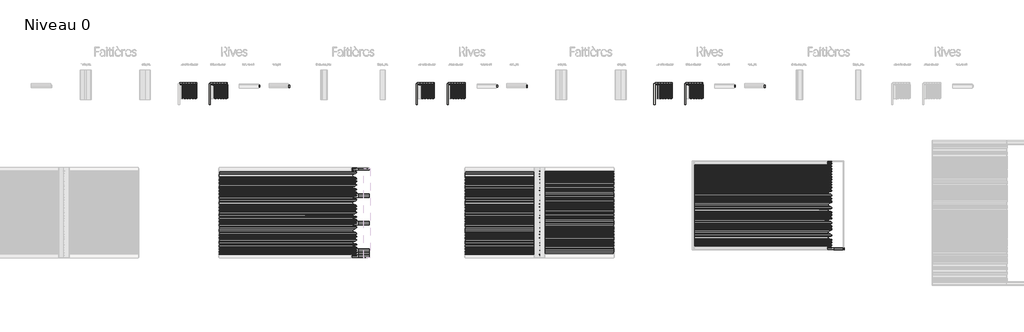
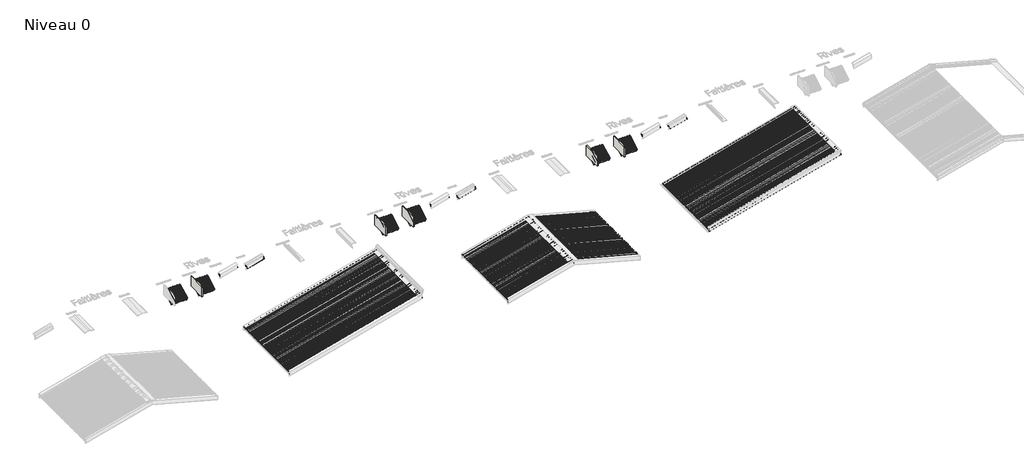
# One storey, part 3 of 26: 71 plates, 51 members, 5 walls.
"""IFC4 building model written with IfcOpenShell, lengths in millimetres."""

from ifc_helpers import new_model, si_unit, origin, origin_with_axes, place, context, project, spatial, polyline, outline, extrude, transform, mapped, element, save
from components import meneau_rectangulaire_d1d4f6c5, meneau_rectangulaire_3ecfb573, meneau_rectangulaire_c6909a84, meneau_rectangulaire_120ebf25, meneau_rectangulaire_eab91256, plate_819b0cbf, plate_a7339eb3, plate_113459ed, vide_4c8c02ac, vide_0bd5e38c, vide_01bff3c3, vide_253f0f0f, vide_02c59cd9, vide_ad1feedb, vide_11869157, vide_fb23bf97, vide_34ec2051, vide_70e162ae, vide_3ddd8d71, vide_3ae48945, vide_57d3df76, vide_da755f3b, vide_2511c875, vide_2859bd23, vide_1ae6cc3c, vide_78e3737e, vide_45902dbe

model = new_model("IFC4")

# Units and contexts
model_context = context("Model", 3, world=origin())
ifc_project = project(units=[si_unit("LENGTHUNIT", "METRE", prefix="MILLI")], contexts=[model_context])

# Site, building, storey
site = spatial("IfcSite", under=ifc_project)
building = spatial("IfcBuilding", under=site)
storey = spatial("IfcBuildingStorey", under=building, Name="Niveau 0", Elevation=0.0)

# Members
placement = place(None, origin())
meneau_rectangulaire_shape = meneau_rectangulaire_d1d4f6c5(model_context)
element("IfcMember", 1, ObjectType="Meneau rectangulaire : Regolare 800", at=placement, inside=storey, context=model_context, shape_type="MappedRepresentation", body=[
    mapped(meneau_rectangulaire_shape, transform((13543.1822429, -14523.7636661, 1339.7459622), x_axis=(0.0, -1.0, 0.0), y_axis=(0.25881904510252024, 0.0, -0.9659258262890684), z_axis=(0.9659258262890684, 0.0, 0.25881904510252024))),
])
element("IfcMember", 2, ObjectType="Meneau rectangulaire : Regolare 800", at=placement, inside=storey, context=model_context, shape_type="MappedRepresentation", body=[
    mapped(meneau_rectangulaire_shape, transform((13543.1822429, -14611.3242403, 1339.7459622), x_axis=(0.0, -1.0, 0.0), y_axis=(0.25881904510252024, 0.0, -0.9659258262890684), z_axis=(0.9659258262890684, 0.0, 0.25881904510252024))),
])
meneau_rectangulaire_2_shape = meneau_rectangulaire_3ecfb573(model_context)
element("IfcMember", 3, ObjectType="Meneau rectangulaire : Regolare 800", at=placement, inside=storey, context=model_context, shape_type="MappedRepresentation", body=[
    mapped(meneau_rectangulaire_2_shape, transform((7293.1822432, -8904.2596825, 269.9457298), x_axis=(1.0, 0.0, 0.0), y_axis=(0.0, 0.5000000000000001, -0.8660254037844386), z_axis=(0.0, 0.8660254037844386, 0.5000000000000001))),
])
element("IfcMember", 4, ObjectType="Meneau rectangulaire : Regolare 800", at=placement, inside=storey, context=model_context, shape_type="MappedRepresentation", body=[
    mapped(meneau_rectangulaire_2_shape, transform((7382.1822432, -8904.2596825, 269.9457298), x_axis=(1.0, 0.0, 0.0), y_axis=(0.0, 0.5000000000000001, -0.8660254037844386), z_axis=(0.0, 0.8660254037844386, 0.5000000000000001))),
])
element("IfcMember", 5, ObjectType="Meneau rectangulaire : Regolare 800", at=placement, inside=storey, context=model_context, shape_type="MappedRepresentation", body=[
    mapped(meneau_rectangulaire_2_shape, transform((7471.1822432, -8904.2596825, 269.9457298), x_axis=(1.0, 0.0, 0.0), y_axis=(0.0, 0.5000000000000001, -0.8660254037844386), z_axis=(0.0, 0.8660254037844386, 0.5000000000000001))),
])
element("IfcMember", 6, ObjectType="Meneau rectangulaire : Regolare 800", at=placement, inside=storey, context=model_context, shape_type="MappedRepresentation", body=[
    mapped(meneau_rectangulaire_2_shape, transform((7560.1822432, -8904.2596825, 269.9457298), x_axis=(1.0, 0.0, 0.0), y_axis=(0.0, 0.5000000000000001, -0.8660254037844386), z_axis=(0.0, 0.8660254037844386, 0.5000000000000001))),
])
element("IfcMember", 7, ObjectType="Meneau rectangulaire : Regolare 800", at=placement, inside=storey, context=model_context, shape_type="MappedRepresentation", body=[
    mapped(meneau_rectangulaire_2_shape, transform((7649.1822432, -8904.2596825, 269.9457298), x_axis=(1.0, 0.0, 0.0), y_axis=(0.0, 0.5000000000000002, -0.8660254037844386), z_axis=(0.0, 0.8660254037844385, 0.5000000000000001))),
])
element("IfcMember", 8, ObjectType="Meneau rectangulaire : Regolare 800", at=placement, inside=storey, context=model_context, shape_type="MappedRepresentation", body=[
    mapped(meneau_rectangulaire_2_shape, transform((7738.1822432, -8904.2596825, 269.9457298), x_axis=(1.0, 0.0, 0.0), y_axis=(0.0, 0.5000000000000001, -0.8660254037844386), z_axis=(0.0, 0.8660254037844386, 0.5000000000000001))),
])
element("IfcMember", 9, ObjectType="Meneau rectangulaire : Regolare 800", at=placement, inside=storey, context=model_context, shape_type="MappedRepresentation", body=[
    mapped(meneau_rectangulaire_2_shape, transform((8328.6564984, -8904.2596825, 269.9457298), x_axis=(1.0, 0.0, 0.0), y_axis=(0.0, 0.5000000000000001, -0.8660254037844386), z_axis=(0.0, 0.8660254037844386, 0.5000000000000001))),
])
element("IfcMember", 10, ObjectType="Meneau rectangulaire : Regolare 800", at=placement, inside=storey, context=model_context, shape_type="MappedRepresentation", body=[
    mapped(meneau_rectangulaire_2_shape, transform((8417.6564984, -8904.2596825, 269.9457298), x_axis=(1.0, 0.0, 0.0), y_axis=(0.0, 0.5000000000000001, -0.8660254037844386), z_axis=(0.0, 0.8660254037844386, 0.5000000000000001))),
])
element("IfcMember", 11, ObjectType="Meneau rectangulaire : Regolare 800", at=placement, inside=storey, context=model_context, shape_type="MappedRepresentation", body=[
    mapped(meneau_rectangulaire_2_shape, transform((8506.6564984, -8904.2596825, 269.9457298), x_axis=(1.0, 0.0, 0.0), y_axis=(0.0, 0.5000000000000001, -0.8660254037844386), z_axis=(0.0, 0.8660254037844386, 0.5000000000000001))),
])
element("IfcMember", 12, ObjectType="Meneau rectangulaire : Regolare 800", at=placement, inside=storey, context=model_context, shape_type="MappedRepresentation", body=[
    mapped(meneau_rectangulaire_2_shape, transform((8595.6564984, -8904.2596825, 269.9457298), x_axis=(1.0, 0.0, 0.0), y_axis=(0.0, 0.5000000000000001, -0.8660254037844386), z_axis=(0.0, 0.8660254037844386, 0.5000000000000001))),
])
element("IfcMember", 13, ObjectType="Meneau rectangulaire : Regolare 800", at=placement, inside=storey, context=model_context, shape_type="MappedRepresentation", body=[
    mapped(meneau_rectangulaire_2_shape, transform((8684.6564984, -8904.2596825, 269.9457298), x_axis=(1.0, 0.0, 0.0), y_axis=(0.0, 0.5000000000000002, -0.8660254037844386), z_axis=(0.0, 0.8660254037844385, 0.5000000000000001))),
])
element("IfcMember", 14, ObjectType="Meneau rectangulaire : Regolare 800", at=placement, inside=storey, context=model_context, shape_type="MappedRepresentation", body=[
    mapped(meneau_rectangulaire_2_shape, transform((8773.6564984, -8904.2596825, 269.9457298), x_axis=(1.0, 0.0, 0.0), y_axis=(0.0, 0.5000000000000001, -0.8660254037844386), z_axis=(0.0, 0.8660254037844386, 0.5000000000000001))),
])
element("IfcMember", 15, ObjectType="Meneau rectangulaire : Regolare 800", at=placement, inside=storey, context=model_context, shape_type="MappedRepresentation", body=[
    mapped(meneau_rectangulaire_2_shape, transform((15293.1822432, -8904.2596825, 269.9457298), x_axis=(1.0, 0.0, 0.0), y_axis=(0.0, 0.5000000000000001, -0.8660254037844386), z_axis=(0.0, 0.8660254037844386, 0.5000000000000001))),
])
element("IfcMember", 16, ObjectType="Meneau rectangulaire : Regolare 800", at=placement, inside=storey, context=model_context, shape_type="MappedRepresentation", body=[
    mapped(meneau_rectangulaire_2_shape, transform((15382.1822432, -8904.2596825, 269.9457298), x_axis=(1.0, 0.0, 0.0), y_axis=(0.0, 0.5000000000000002, -0.8660254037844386), z_axis=(0.0, 0.8660254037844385, 0.5000000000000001))),
])
element("IfcMember", 17, ObjectType="Meneau rectangulaire : Regolare 800", at=placement, inside=storey, context=model_context, shape_type="MappedRepresentation", body=[
    mapped(meneau_rectangulaire_2_shape, transform((15471.1822432, -8904.2596825, 269.9457298), x_axis=(1.0, 0.0, 0.0), y_axis=(0.0, 0.5000000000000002, -0.8660254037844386), z_axis=(0.0, 0.8660254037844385, 0.5000000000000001))),
])
element("IfcMember", 18, ObjectType="Meneau rectangulaire : Regolare 800", at=placement, inside=storey, context=model_context, shape_type="MappedRepresentation", body=[
    mapped(meneau_rectangulaire_2_shape, transform((15560.1822432, -8904.2596825, 269.9457298), x_axis=(1.0, 0.0, 0.0), y_axis=(0.0, 0.5000000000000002, -0.8660254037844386), z_axis=(0.0, 0.8660254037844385, 0.5000000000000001))),
])
element("IfcMember", 19, ObjectType="Meneau rectangulaire : Regolare 800", at=placement, inside=storey, context=model_context, shape_type="MappedRepresentation", body=[
    mapped(meneau_rectangulaire_2_shape, transform((15649.1822432, -8904.2596825, 269.9457298), x_axis=(1.0, 0.0, 0.0), y_axis=(0.0, 0.5000000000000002, -0.8660254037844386), z_axis=(0.0, 0.8660254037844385, 0.5000000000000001))),
])
element("IfcMember", 20, ObjectType="Meneau rectangulaire : Regolare 800", at=placement, inside=storey, context=model_context, shape_type="MappedRepresentation", body=[
    mapped(meneau_rectangulaire_2_shape, transform((15738.1822432, -8904.2596825, 269.9457298), x_axis=(1.0, 0.0, 0.0), y_axis=(0.0, 0.5000000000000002, -0.8660254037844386), z_axis=(0.0, 0.8660254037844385, 0.5000000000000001))),
])
element("IfcMember", 21, ObjectType="Meneau rectangulaire : Regolare 800", at=placement, inside=storey, context=model_context, shape_type="MappedRepresentation", body=[
    mapped(meneau_rectangulaire_2_shape, transform((16328.6564984, -8904.2596825, 269.9457298), x_axis=(1.0, 0.0, 0.0), y_axis=(0.0, 0.5000000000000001, -0.8660254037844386), z_axis=(0.0, 0.8660254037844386, 0.5000000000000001))),
])
element("IfcMember", 22, ObjectType="Meneau rectangulaire : Regolare 800", at=placement, inside=storey, context=model_context, shape_type="MappedRepresentation", body=[
    mapped(meneau_rectangulaire_2_shape, transform((16417.6564984, -8904.2596825, 269.9457298), x_axis=(1.0, 0.0, 0.0), y_axis=(0.0, 0.5000000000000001, -0.8660254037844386), z_axis=(0.0, 0.8660254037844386, 0.5000000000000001))),
])
element("IfcMember", 23, ObjectType="Meneau rectangulaire : Regolare 800", at=placement, inside=storey, context=model_context, shape_type="MappedRepresentation", body=[
    mapped(meneau_rectangulaire_2_shape, transform((16506.6564984, -8904.2596825, 269.9457298), x_axis=(1.0, 0.0, 0.0), y_axis=(0.0, 0.5000000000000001, -0.8660254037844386), z_axis=(0.0, 0.8660254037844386, 0.5000000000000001))),
])
element("IfcMember", 24, ObjectType="Meneau rectangulaire : Regolare 800", at=placement, inside=storey, context=model_context, shape_type="MappedRepresentation", body=[
    mapped(meneau_rectangulaire_2_shape, transform((16595.6564984, -8904.2596825, 269.9457298), x_axis=(1.0, 0.0, 0.0), y_axis=(0.0, 0.5000000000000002, -0.8660254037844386), z_axis=(0.0, 0.8660254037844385, 0.5000000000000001))),
])
element("IfcMember", 25, ObjectType="Meneau rectangulaire : Regolare 800", at=placement, inside=storey, context=model_context, shape_type="MappedRepresentation", body=[
    mapped(meneau_rectangulaire_2_shape, transform((16684.6564984, -8904.2596825, 269.9457298), x_axis=(1.0, 0.0, 0.0), y_axis=(0.0, 0.5000000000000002, -0.8660254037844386), z_axis=(0.0, 0.8660254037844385, 0.5000000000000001))),
])
element("IfcMember", 26, ObjectType="Meneau rectangulaire : Regolare 800", at=placement, inside=storey, context=model_context, shape_type="MappedRepresentation", body=[
    mapped(meneau_rectangulaire_2_shape, transform((16773.6564984, -8904.2596825, 269.9457298), x_axis=(1.0, 0.0, 0.0), y_axis=(0.0, 0.5000000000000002, -0.8660254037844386), z_axis=(0.0, 0.8660254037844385, 0.5000000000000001))),
])
element("IfcMember", 27, ObjectType="Meneau rectangulaire : Regolare 800", at=placement, inside=storey, context=model_context, shape_type="MappedRepresentation", body=[
    mapped(meneau_rectangulaire_2_shape, transform((23293.1822432, -8904.2596825, 269.9457298), x_axis=(1.0, 0.0, 0.0), y_axis=(0.0, 0.5000000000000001, -0.8660254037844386), z_axis=(0.0, 0.8660254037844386, 0.5000000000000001))),
])
element("IfcMember", 28, ObjectType="Meneau rectangulaire : Regolare 800", at=placement, inside=storey, context=model_context, shape_type="MappedRepresentation", body=[
    mapped(meneau_rectangulaire_2_shape, transform((23382.1822432, -8904.2596825, 269.9457298), x_axis=(1.0, 0.0, 0.0), y_axis=(0.0, 0.5000000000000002, -0.8660254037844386), z_axis=(0.0, 0.8660254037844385, 0.5000000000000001))),
])
element("IfcMember", 29, ObjectType="Meneau rectangulaire : Regolare 800", at=placement, inside=storey, context=model_context, shape_type="MappedRepresentation", body=[
    mapped(meneau_rectangulaire_2_shape, transform((23471.1822432, -8904.2596825, 269.9457298), x_axis=(1.0, 0.0, 0.0), y_axis=(0.0, 0.5000000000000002, -0.8660254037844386), z_axis=(0.0, 0.8660254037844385, 0.5000000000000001))),
])
element("IfcMember", 30, ObjectType="Meneau rectangulaire : Regolare 800", at=placement, inside=storey, context=model_context, shape_type="MappedRepresentation", body=[
    mapped(meneau_rectangulaire_2_shape, transform((23560.1822432, -8904.2596825, 269.9457298), x_axis=(1.0, 0.0, 0.0), y_axis=(0.0, 0.5000000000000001, -0.8660254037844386), z_axis=(0.0, 0.8660254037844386, 0.5000000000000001))),
])
element("IfcMember", 31, ObjectType="Meneau rectangulaire : Regolare 800", at=placement, inside=storey, context=model_context, shape_type="MappedRepresentation", body=[
    mapped(meneau_rectangulaire_2_shape, transform((23649.1822432, -8904.2596825, 269.9457298), x_axis=(1.0, 0.0, 0.0), y_axis=(0.0, 0.5000000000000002, -0.8660254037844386), z_axis=(0.0, 0.8660254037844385, 0.5000000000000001))),
])
element("IfcMember", 32, ObjectType="Meneau rectangulaire : Regolare 800", at=placement, inside=storey, context=model_context, shape_type="MappedRepresentation", body=[
    mapped(meneau_rectangulaire_2_shape, transform((23738.1822432, -8904.2596825, 269.9457298), x_axis=(1.0, 0.0, 0.0), y_axis=(0.0, 0.5000000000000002, -0.8660254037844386), z_axis=(0.0, 0.8660254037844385, 0.5000000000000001))),
])
element("IfcMember", 33, ObjectType="Meneau rectangulaire : Regolare 800", at=placement, inside=storey, context=model_context, shape_type="MappedRepresentation", body=[
    mapped(meneau_rectangulaire_2_shape, transform((24328.6564984, -8904.2596825, 269.9457298), x_axis=(1.0, 0.0, 0.0), y_axis=(0.0, 0.5000000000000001, -0.8660254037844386), z_axis=(0.0, 0.8660254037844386, 0.5000000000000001))),
])
element("IfcMember", 34, ObjectType="Meneau rectangulaire : Regolare 800", at=placement, inside=storey, context=model_context, shape_type="MappedRepresentation", body=[
    mapped(meneau_rectangulaire_2_shape, transform((24417.6564984, -8904.2596825, 269.9457298), x_axis=(1.0, 0.0, 0.0), y_axis=(0.0, 0.5000000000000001, -0.8660254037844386), z_axis=(0.0, 0.8660254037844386, 0.5000000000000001))),
])
element("IfcMember", 35, ObjectType="Meneau rectangulaire : Regolare 800", at=placement, inside=storey, context=model_context, shape_type="MappedRepresentation", body=[
    mapped(meneau_rectangulaire_2_shape, transform((24506.6564984, -8904.2596825, 269.9457298), x_axis=(1.0, 0.0, 0.0), y_axis=(0.0, 0.5000000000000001, -0.8660254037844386), z_axis=(0.0, 0.8660254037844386, 0.5000000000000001))),
])
element("IfcMember", 36, ObjectType="Meneau rectangulaire : Regolare 800", at=placement, inside=storey, context=model_context, shape_type="MappedRepresentation", body=[
    mapped(meneau_rectangulaire_2_shape, transform((24595.6564984, -8904.2596825, 269.9457298), x_axis=(1.0, 0.0, 0.0), y_axis=(0.0, 0.5000000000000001, -0.8660254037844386), z_axis=(0.0, 0.8660254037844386, 0.5000000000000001))),
])
element("IfcMember", 37, ObjectType="Meneau rectangulaire : Regolare 800", at=placement, inside=storey, context=model_context, shape_type="MappedRepresentation", body=[
    mapped(meneau_rectangulaire_2_shape, transform((24684.6564984, -8904.2596825, 269.9457298), x_axis=(1.0, 0.0, 0.0), y_axis=(0.0, 0.5000000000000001, -0.8660254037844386), z_axis=(0.0, 0.8660254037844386, 0.5000000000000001))),
])
element("IfcMember", 38, ObjectType="Meneau rectangulaire : Regolare 800", at=placement, inside=storey, context=model_context, shape_type="MappedRepresentation", body=[
    mapped(meneau_rectangulaire_2_shape, transform((24773.6564984, -8904.2596825, 269.9457298), x_axis=(1.0, 0.0, 0.0), y_axis=(0.0, 0.5000000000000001, -0.8660254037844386), z_axis=(0.0, 0.8660254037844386, 0.5000000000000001))),
])
meneau_rectangulaire_3_shape = meneau_rectangulaire_c6909a84(model_context)
element("IfcMember", 39, ObjectType="Meneau rectangulaire : Regolare 800", at=placement, inside=storey, context=model_context, shape_type="MappedRepresentation", body=[
    mapped(meneau_rectangulaire_3_shape, transform((19316.3996071, -11901.1860221, 669.8729811), x_axis=(0.0, 1.0, 0.0), y_axis=(-0.25881904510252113, 0.0, -0.9659258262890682), z_axis=(-0.9659258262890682, 0.0, 0.25881904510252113))),
])
element("IfcMember", 40, ObjectType="Meneau rectangulaire : Regolare 800", at=placement, inside=storey, context=model_context, shape_type="MappedRepresentation", body=[
    mapped(meneau_rectangulaire_3_shape, transform((19316.3996071, -14522.4337097, 669.8729811), x_axis=(0.0, -1.0, 0.0), y_axis=(0.25881904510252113, 0.0, -0.9659258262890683), z_axis=(0.9659258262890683, 0.0, 0.25881904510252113))),
])
element("IfcMember", 41, ObjectType="Meneau rectangulaire : Regolare 800", at=placement, inside=storey, context=model_context, shape_type="MappedRepresentation", body=[
    mapped(meneau_rectangulaire_3_shape, transform((19316.3996071, -14612.4337097, 669.8729811), x_axis=(0.0, -1.0, 0.0), y_axis=(0.25881904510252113, 0.0, -0.9659258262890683), z_axis=(0.9659258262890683, 0.0, 0.25881904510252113))),
])
element("IfcMember", 42, ObjectType="Meneau rectangulaire : Regolare 800", at=placement, inside=storey, context=model_context, shape_type="MappedRepresentation", body=[
    mapped(meneau_rectangulaire_3_shape, transform((19316.3996071, -11812.3356781, 669.8729811), x_axis=(0.0, 1.0, 0.0), y_axis=(-0.25881904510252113, 0.0, -0.9659258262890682), z_axis=(-0.9659258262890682, 0.0, 0.25881904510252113))),
])
meneau_rectangulaire_4_shape = meneau_rectangulaire_120ebf25(model_context)
element("IfcMember", 43, ObjectType="Meneau rectangulaire : Ritmica 930", at=placement, inside=storey, context=model_context, shape_type="MappedRepresentation", body=[
    mapped(meneau_rectangulaire_4_shape, transform((13543.1822429, -12203.504748, 1339.7459622), x_axis=(0.0, -1.0, 0.0), y_axis=(0.25881904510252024, 0.0, -0.9659258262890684), z_axis=(0.9659258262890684, 0.0, 0.25881904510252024))),
])
element("IfcMember", 44, ObjectType="Meneau rectangulaire : Ritmica 930", at=placement, inside=storey, context=model_context, shape_type="MappedRepresentation", body=[
    mapped(meneau_rectangulaire_4_shape, transform((13543.1822429, -13130.504748, 1339.7459622), x_axis=(0.0, -1.0, 0.0), y_axis=(0.25881904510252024, 0.0, -0.9659258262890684), z_axis=(0.9659258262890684, 0.0, 0.25881904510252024))),
])
element("IfcMember", 45, ObjectType="Meneau rectangulaire : Ritmica 930", at=placement, inside=storey, context=model_context, shape_type="MappedRepresentation", body=[
    mapped(meneau_rectangulaire_4_shape, transform((13543.1822429, -14057.504748, 1339.7459622), x_axis=(0.0, -1.0, 0.0), y_axis=(0.25881904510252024, 0.0, -0.9659258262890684), z_axis=(0.9659258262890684, 0.0, 0.25881904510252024))),
])
meneau_rectangulaire_5_shape = meneau_rectangulaire_eab91256(model_context)
element("IfcMember", 46, ObjectType="Meneau rectangulaire : Ritmica 930", at=placement, inside=storey, context=model_context, shape_type="MappedRepresentation", body=[
    mapped(meneau_rectangulaire_5_shape, transform((19316.3996071, -14221.3626714, 669.8729811), x_axis=(0.0, 1.0, 0.0), y_axis=(-0.25881904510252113, 0.0, -0.9659258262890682), z_axis=(-0.9659258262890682, 0.0, 0.25881904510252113))),
])
element("IfcMember", 47, ObjectType="Meneau rectangulaire : Ritmica 930", at=placement, inside=storey, context=model_context, shape_type="MappedRepresentation", body=[
    mapped(meneau_rectangulaire_5_shape, transform((19316.3996071, -13294.3626714, 669.8729811), x_axis=(0.0, 1.0, 0.0), y_axis=(-0.25881904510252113, 0.0, -0.9659258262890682), z_axis=(-0.9659258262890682, 0.0, 0.25881904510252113))),
])
element("IfcMember", 48, ObjectType="Meneau rectangulaire : Ritmica 930", at=placement, inside=storey, context=model_context, shape_type="MappedRepresentation", body=[
    mapped(meneau_rectangulaire_5_shape, transform((19316.3996071, -12367.3626714, 669.8729811), x_axis=(0.0, 1.0, 0.0), y_axis=(-0.25881904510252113, 0.0, -0.9659258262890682), z_axis=(-0.9659258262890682, 0.0, 0.25881904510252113))),
])
element("IfcMember", 49, ObjectType="Meneau rectangulaire : Ritmica 930", at=placement, inside=storey, context=model_context, shape_type="MappedRepresentation", body=[
    mapped(meneau_rectangulaire_5_shape, transform((19316.3996071, -12203.504748, 669.8729811), x_axis=(0.0, -1.0, 0.0), y_axis=(0.25881904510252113, 0.0, -0.9659258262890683), z_axis=(0.9659258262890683, 0.0, 0.25881904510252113))),
])
element("IfcMember", 50, ObjectType="Meneau rectangulaire : Ritmica 930", at=placement, inside=storey, context=model_context, shape_type="MappedRepresentation", body=[
    mapped(meneau_rectangulaire_5_shape, transform((19316.3996071, -13130.504748, 669.8729811), x_axis=(0.0, -1.0, 0.0), y_axis=(0.25881904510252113, 0.0, -0.9659258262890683), z_axis=(0.9659258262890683, 0.0, 0.25881904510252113))),
])
element("IfcMember", 51, ObjectType="Meneau rectangulaire : Ritmica 930", at=placement, inside=storey, context=model_context, shape_type="MappedRepresentation", body=[
    mapped(meneau_rectangulaire_5_shape, transform((19316.3996071, -14057.504748, 669.8729811), x_axis=(0.0, -1.0, 0.0), y_axis=(0.25881904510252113, 0.0, -0.9659258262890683), z_axis=(0.9659258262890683, 0.0, 0.25881904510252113))),
])

# Plates
plate_shape = plate_819b0cbf(model_context)
element("IfcPlate", 52, ObjectType="Regolare Couverture 801  : Regolare Couverture 801 ", at=placement, inside=storey, context=model_context, shape_type="MappedRepresentation", body=[
    mapped(plate_shape, transform((24538.005862, -11867.4337097, 0.0), x_axis=(0.0, -1.0, 0.0), y_axis=(0.25881904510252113, 0.0, -0.9659258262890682), z_axis=(0.9659258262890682, 0.0, 0.25881904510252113))),
])
plate_2_shape = plate_a7339eb3(model_context)
element("IfcPlate", 53, ObjectType="Regolare Couverture 267  : Regolare Couverture 267 ", at=placement, inside=storey, context=model_context, shape_type="MappedRepresentation", body=[
    mapped(plate_2_shape, transform((24538.005862, -14257.4337097, 0.0), x_axis=(0.0, -1.0, 0.0), y_axis=(0.25881904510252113, 0.0, -0.9659258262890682), z_axis=(0.9659258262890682, 0.0, 0.25881904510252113))),
])
plate_3_shape = plate_113459ed(model_context)
element("IfcPlate", 54, ObjectType="Ritmica Couverture 928  : Ritmica Couverture 928 ", at=placement, inside=storey, context=model_context, shape_type="MappedRepresentation", body=[
    mapped(plate_3_shape, transform((24538.005862, -12731.9337097, 0.0), x_axis=(0.0, -1.0, 0.0), y_axis=(0.25881904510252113, 0.0, -0.9659258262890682), z_axis=(0.9659258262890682, 0.0, 0.25881904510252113))),
])
element("IfcPlate", 55, ObjectType="Ritmica Couverture 928  : Ritmica Couverture 928 ", at=placement, inside=storey, context=model_context, shape_type="MappedRepresentation", body=[
    mapped(plate_3_shape, transform((24538.005862, -13659.9337097, 0.0), x_axis=(0.0, -1.0, 0.0), y_axis=(0.25881904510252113, 0.0, -0.9659258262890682), z_axis=(0.9659258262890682, 0.0, 0.25881904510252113))),
])
vide_shape = vide_4c8c02ac(model_context)
element("IfcPlate", 56, ObjectType="Panneau système vide : Vide", at=placement, inside=storey, context=model_context, shape_type="MappedRepresentation", body=[
    mapped(vide_shape, transform((7248.6822431, -9371.8194017, 0.0), x_axis=(1.0, 0.0, 0.0), y_axis=(0.0, 0.5000000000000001, -0.8660254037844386), z_axis=(0.0, 0.8660254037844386, 0.5000000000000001))),
])
element("IfcPlate", 57, ObjectType="Panneau système vide : Vide", at=placement, inside=storey, context=model_context, shape_type="MappedRepresentation", body=[
    mapped(vide_shape, transform((8284.1564982, -9371.8194017, 0.0), x_axis=(1.0, 0.0, 0.0), y_axis=(0.0, 0.5000000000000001, -0.8660254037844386), z_axis=(0.0, 0.8660254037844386, 0.5000000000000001))),
])
element("IfcPlate", 58, ObjectType="Panneau système vide : Vide", at=placement, inside=storey, context=model_context, shape_type="MappedRepresentation", body=[
    mapped(vide_shape, transform((15248.6822431, -9371.8194017, 0.0), x_axis=(1.0, 0.0, 0.0), y_axis=(0.0, 0.5000000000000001, -0.8660254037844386), z_axis=(0.0, 0.8660254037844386, 0.5000000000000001))),
])
element("IfcPlate", 59, ObjectType="Panneau système vide : Vide", at=placement, inside=storey, context=model_context, shape_type="MappedRepresentation", body=[
    mapped(vide_shape, transform((16284.1564982, -9371.8194017, 0.0), x_axis=(1.0, 0.0, 0.0), y_axis=(0.0, 0.5000000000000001, -0.8660254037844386), z_axis=(0.0, 0.8660254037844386, 0.5000000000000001))),
])
element("IfcPlate", 60, ObjectType="Panneau système vide : Vide", at=placement, inside=storey, context=model_context, shape_type="MappedRepresentation", body=[
    mapped(vide_shape, transform((23248.6822431, -9371.8194017, 0.0), x_axis=(1.0, 0.0, 0.0), y_axis=(0.0, 0.5000000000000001, -0.8660254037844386), z_axis=(0.0, 0.8660254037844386, 0.5000000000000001))),
])
element("IfcPlate", 61, ObjectType="Panneau système vide : Vide", at=placement, inside=storey, context=model_context, shape_type="MappedRepresentation", body=[
    mapped(vide_shape, transform((24284.1564982, -9371.8194017, 0.0), x_axis=(1.0, 0.0, 0.0), y_axis=(0.0, 0.5000000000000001, -0.8660254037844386), z_axis=(0.0, 0.8660254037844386, 0.5000000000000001))),
])
vide_2_shape = vide_0bd5e38c(model_context)
element("IfcPlate", 62, ObjectType="Panneau système vide : Vide", at=placement, inside=storey, context=model_context, shape_type="MappedRepresentation", body=[
    mapped(vide_2_shape, transform((7337.6822432, -9371.8194017, 0.0), x_axis=(1.0, 0.0, 0.0), y_axis=(0.0, 0.5000000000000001, -0.8660254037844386), z_axis=(0.0, 0.8660254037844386, 0.5000000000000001))),
])
element("IfcPlate", 63, ObjectType="Panneau système vide : Vide", at=placement, inside=storey, context=model_context, shape_type="MappedRepresentation", body=[
    mapped(vide_2_shape, transform((7426.6822432, -9371.8194017, 0.0), x_axis=(1.0, 0.0, 0.0), y_axis=(0.0, 0.5000000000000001, -0.8660254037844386), z_axis=(0.0, 0.8660254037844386, 0.5000000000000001))),
])
element("IfcPlate", 64, ObjectType="Panneau système vide : Vide", at=placement, inside=storey, context=model_context, shape_type="MappedRepresentation", body=[
    mapped(vide_2_shape, transform((7515.6822432, -9371.8194017, 0.0), x_axis=(1.0, 0.0, 0.0), y_axis=(0.0, 0.5000000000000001, -0.8660254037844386), z_axis=(0.0, 0.8660254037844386, 0.5000000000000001))),
])
element("IfcPlate", 65, ObjectType="Panneau système vide : Vide", at=placement, inside=storey, context=model_context, shape_type="MappedRepresentation", body=[
    mapped(vide_2_shape, transform((7604.6822432, -9371.8194017, 0.0), x_axis=(1.0, 0.0, 0.0), y_axis=(0.0, 0.5000000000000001, -0.8660254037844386), z_axis=(0.0, 0.8660254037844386, 0.5000000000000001))),
])
element("IfcPlate", 66, ObjectType="Panneau système vide : Vide", at=placement, inside=storey, context=model_context, shape_type="MappedRepresentation", body=[
    mapped(vide_2_shape, transform((7693.6822432, -9371.8194017, 0.0), x_axis=(1.0, 0.0, 0.0), y_axis=(0.0, 0.5000000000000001, -0.8660254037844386), z_axis=(0.0, 0.8660254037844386, 0.5000000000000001))),
])
element("IfcPlate", 67, ObjectType="Panneau système vide : Vide", at=placement, inside=storey, context=model_context, shape_type="MappedRepresentation", body=[
    mapped(vide_2_shape, transform((8373.1564984, -9371.8194017, 0.0), x_axis=(1.0, 0.0, 0.0), y_axis=(0.0, 0.5000000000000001, -0.8660254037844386), z_axis=(0.0, 0.8660254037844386, 0.5000000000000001))),
])
element("IfcPlate", 68, ObjectType="Panneau système vide : Vide", at=placement, inside=storey, context=model_context, shape_type="MappedRepresentation", body=[
    mapped(vide_2_shape, transform((8462.1564984, -9371.8194017, 0.0), x_axis=(1.0, 0.0, 0.0), y_axis=(0.0, 0.5000000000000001, -0.8660254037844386), z_axis=(0.0, 0.8660254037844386, 0.5000000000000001))),
])
element("IfcPlate", 69, ObjectType="Panneau système vide : Vide", at=placement, inside=storey, context=model_context, shape_type="MappedRepresentation", body=[
    mapped(vide_2_shape, transform((8551.1564984, -9371.8194017, 0.0), x_axis=(1.0, 0.0, 0.0), y_axis=(0.0, 0.5000000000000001, -0.8660254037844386), z_axis=(0.0, 0.8660254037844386, 0.5000000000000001))),
])
element("IfcPlate", 70, ObjectType="Panneau système vide : Vide", at=placement, inside=storey, context=model_context, shape_type="MappedRepresentation", body=[
    mapped(vide_2_shape, transform((8640.1564984, -9371.8194017, 0.0), x_axis=(1.0, 0.0, 0.0), y_axis=(0.0, 0.5000000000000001, -0.8660254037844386), z_axis=(0.0, 0.8660254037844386, 0.5000000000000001))),
])
element("IfcPlate", 71, ObjectType="Panneau système vide : Vide", at=placement, inside=storey, context=model_context, shape_type="MappedRepresentation", body=[
    mapped(vide_2_shape, transform((8729.1564984, -9371.8194017, 0.0), x_axis=(1.0, 0.0, 0.0), y_axis=(0.0, 0.5000000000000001, -0.8660254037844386), z_axis=(0.0, 0.8660254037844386, 0.5000000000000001))),
])
element("IfcPlate", 72, ObjectType="Panneau système vide : Vide", at=placement, inside=storey, context=model_context, shape_type="MappedRepresentation", body=[
    mapped(vide_2_shape, transform((15337.6822432, -9371.8194017, 0.0), x_axis=(1.0, 0.0, 0.0), y_axis=(0.0, 0.5000000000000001, -0.8660254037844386), z_axis=(0.0, 0.8660254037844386, 0.5000000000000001))),
])
element("IfcPlate", 73, ObjectType="Panneau système vide : Vide", at=placement, inside=storey, context=model_context, shape_type="MappedRepresentation", body=[
    mapped(vide_2_shape, transform((15426.6822432, -9371.8194017, 0.0), x_axis=(1.0, 0.0, 0.0), y_axis=(0.0, 0.5000000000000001, -0.8660254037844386), z_axis=(0.0, 0.8660254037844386, 0.5000000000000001))),
])
element("IfcPlate", 74, ObjectType="Panneau système vide : Vide", at=placement, inside=storey, context=model_context, shape_type="MappedRepresentation", body=[
    mapped(vide_2_shape, transform((15515.6822432, -9371.8194017, 0.0), x_axis=(1.0, 0.0, 0.0), y_axis=(0.0, 0.5000000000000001, -0.8660254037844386), z_axis=(0.0, 0.8660254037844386, 0.5000000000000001))),
])
element("IfcPlate", 75, ObjectType="Panneau système vide : Vide", at=placement, inside=storey, context=model_context, shape_type="MappedRepresentation", body=[
    mapped(vide_2_shape, transform((15604.6822432, -9371.8194017, 0.0), x_axis=(1.0, 0.0, 0.0), y_axis=(0.0, 0.5000000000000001, -0.8660254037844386), z_axis=(0.0, 0.8660254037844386, 0.5000000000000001))),
])
element("IfcPlate", 76, ObjectType="Panneau système vide : Vide", at=placement, inside=storey, context=model_context, shape_type="MappedRepresentation", body=[
    mapped(vide_2_shape, transform((15693.6822432, -9371.8194017, 0.0), x_axis=(1.0, 0.0, 0.0), y_axis=(0.0, 0.5000000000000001, -0.8660254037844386), z_axis=(0.0, 0.8660254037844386, 0.5000000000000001))),
])
element("IfcPlate", 77, ObjectType="Panneau système vide : Vide", at=placement, inside=storey, context=model_context, shape_type="MappedRepresentation", body=[
    mapped(vide_2_shape, transform((16373.1564984, -9371.8194017, 0.0), x_axis=(1.0, 0.0, 0.0), y_axis=(0.0, 0.5000000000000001, -0.8660254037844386), z_axis=(0.0, 0.8660254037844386, 0.5000000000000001))),
])
element("IfcPlate", 78, ObjectType="Panneau système vide : Vide", at=placement, inside=storey, context=model_context, shape_type="MappedRepresentation", body=[
    mapped(vide_2_shape, transform((16462.1564984, -9371.8194017, 0.0), x_axis=(1.0, 0.0, 0.0), y_axis=(0.0, 0.5000000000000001, -0.8660254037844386), z_axis=(0.0, 0.8660254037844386, 0.5000000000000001))),
])
element("IfcPlate", 79, ObjectType="Panneau système vide : Vide", at=placement, inside=storey, context=model_context, shape_type="MappedRepresentation", body=[
    mapped(vide_2_shape, transform((16551.1564984, -9371.8194017, 0.0), x_axis=(1.0, 0.0, 0.0), y_axis=(0.0, 0.5000000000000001, -0.8660254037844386), z_axis=(0.0, 0.8660254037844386, 0.5000000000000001))),
])
element("IfcPlate", 80, ObjectType="Panneau système vide : Vide", at=placement, inside=storey, context=model_context, shape_type="MappedRepresentation", body=[
    mapped(vide_2_shape, transform((16640.1564984, -9371.8194017, 0.0), x_axis=(1.0, 0.0, 0.0), y_axis=(0.0, 0.5000000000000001, -0.8660254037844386), z_axis=(0.0, 0.8660254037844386, 0.5000000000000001))),
])
element("IfcPlate", 81, ObjectType="Panneau système vide : Vide", at=placement, inside=storey, context=model_context, shape_type="MappedRepresentation", body=[
    mapped(vide_2_shape, transform((16729.1564984, -9371.8194017, 0.0), x_axis=(1.0, 0.0, 0.0), y_axis=(0.0, 0.5000000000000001, -0.8660254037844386), z_axis=(0.0, 0.8660254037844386, 0.5000000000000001))),
])
element("IfcPlate", 82, ObjectType="Panneau système vide : Vide", at=placement, inside=storey, context=model_context, shape_type="MappedRepresentation", body=[
    mapped(vide_2_shape, transform((23337.6822432, -9371.8194017, 0.0), x_axis=(1.0, 0.0, 0.0), y_axis=(0.0, 0.5000000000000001, -0.8660254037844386), z_axis=(0.0, 0.8660254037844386, 0.5000000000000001))),
])
element("IfcPlate", 83, ObjectType="Panneau système vide : Vide", at=placement, inside=storey, context=model_context, shape_type="MappedRepresentation", body=[
    mapped(vide_2_shape, transform((23426.6822432, -9371.8194017, 0.0), x_axis=(1.0, 0.0, 0.0), y_axis=(0.0, 0.5000000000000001, -0.8660254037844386), z_axis=(0.0, 0.8660254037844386, 0.5000000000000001))),
])
element("IfcPlate", 84, ObjectType="Panneau système vide : Vide", at=placement, inside=storey, context=model_context, shape_type="MappedRepresentation", body=[
    mapped(vide_2_shape, transform((23515.6822432, -9371.8194017, 0.0), x_axis=(1.0, 0.0, 0.0), y_axis=(0.0, 0.5000000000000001, -0.8660254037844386), z_axis=(0.0, 0.8660254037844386, 0.5000000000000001))),
])
element("IfcPlate", 85, ObjectType="Panneau système vide : Vide", at=placement, inside=storey, context=model_context, shape_type="MappedRepresentation", body=[
    mapped(vide_2_shape, transform((23604.6822432, -9371.8194017, 0.0), x_axis=(1.0, 0.0, 0.0), y_axis=(0.0, 0.5000000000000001, -0.8660254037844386), z_axis=(0.0, 0.8660254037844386, 0.5000000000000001))),
])
element("IfcPlate", 86, ObjectType="Panneau système vide : Vide", at=placement, inside=storey, context=model_context, shape_type="MappedRepresentation", body=[
    mapped(vide_2_shape, transform((23693.6822432, -9371.8194017, 0.0), x_axis=(1.0, 0.0, 0.0), y_axis=(0.0, 0.5000000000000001, -0.8660254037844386), z_axis=(0.0, 0.8660254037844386, 0.5000000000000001))),
])
element("IfcPlate", 87, ObjectType="Panneau système vide : Vide", at=placement, inside=storey, context=model_context, shape_type="MappedRepresentation", body=[
    mapped(vide_2_shape, transform((24373.1564984, -9371.8194017, 0.0), x_axis=(1.0, 0.0, 0.0), y_axis=(0.0, 0.5000000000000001, -0.8660254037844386), z_axis=(0.0, 0.8660254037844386, 0.5000000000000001))),
])
element("IfcPlate", 88, ObjectType="Panneau système vide : Vide", at=placement, inside=storey, context=model_context, shape_type="MappedRepresentation", body=[
    mapped(vide_2_shape, transform((24462.1564984, -9371.8194017, 0.0), x_axis=(1.0, 0.0, 0.0), y_axis=(0.0, 0.5000000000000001, -0.8660254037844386), z_axis=(0.0, 0.8660254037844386, 0.5000000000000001))),
])
element("IfcPlate", 89, ObjectType="Panneau système vide : Vide", at=placement, inside=storey, context=model_context, shape_type="MappedRepresentation", body=[
    mapped(vide_2_shape, transform((24551.1564984, -9371.8194017, 0.0), x_axis=(1.0, 0.0, 0.0), y_axis=(0.0, 0.5000000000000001, -0.8660254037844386), z_axis=(0.0, 0.8660254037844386, 0.5000000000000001))),
])
element("IfcPlate", 90, ObjectType="Panneau système vide : Vide", at=placement, inside=storey, context=model_context, shape_type="MappedRepresentation", body=[
    mapped(vide_2_shape, transform((24640.1564984, -9371.8194017, 0.0), x_axis=(1.0, 0.0, 0.0), y_axis=(0.0, 0.5000000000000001, -0.8660254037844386), z_axis=(0.0, 0.8660254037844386, 0.5000000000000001))),
])
element("IfcPlate", 91, ObjectType="Panneau système vide : Vide", at=placement, inside=storey, context=model_context, shape_type="MappedRepresentation", body=[
    mapped(vide_2_shape, transform((24729.1564984, -9371.8194017, 0.0), x_axis=(1.0, 0.0, 0.0), y_axis=(0.0, 0.5000000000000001, -0.8660254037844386), z_axis=(0.0, 0.8660254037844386, 0.5000000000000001))),
])
vide_3_shape = vide_01bff3c3(model_context)
element("IfcPlate", 92, ObjectType="Panneau système vide : Vide", at=placement, inside=storey, context=model_context, shape_type="MappedRepresentation", body=[
    mapped(vide_3_shape, transform((7758.6822431, -9371.8194017, 0.0), x_axis=(1.0, 0.0, 0.0), y_axis=(0.0, 0.5000000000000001, -0.8660254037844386), z_axis=(0.0, 0.8660254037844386, 0.5000000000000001))),
])
element("IfcPlate", 93, ObjectType="Panneau système vide : Vide", at=placement, inside=storey, context=model_context, shape_type="MappedRepresentation", body=[
    mapped(vide_3_shape, transform((8794.1564982, -9371.8194017, 0.0), x_axis=(1.0, 0.0, 0.0), y_axis=(0.0, 0.5000000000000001, -0.8660254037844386), z_axis=(0.0, 0.8660254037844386, 0.5000000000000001))),
])
element("IfcPlate", 94, ObjectType="Panneau système vide : Vide", at=placement, inside=storey, context=model_context, shape_type="MappedRepresentation", body=[
    mapped(vide_3_shape, transform((15758.6822431, -9371.8194017, 0.0), x_axis=(1.0, 0.0, 0.0), y_axis=(0.0, 0.5000000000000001, -0.8660254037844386), z_axis=(0.0, 0.8660254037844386, 0.5000000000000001))),
])
element("IfcPlate", 95, ObjectType="Panneau système vide : Vide", at=placement, inside=storey, context=model_context, shape_type="MappedRepresentation", body=[
    mapped(vide_3_shape, transform((16794.1564982, -9371.8194017, 0.0), x_axis=(1.0, 0.0, 0.0), y_axis=(0.0, 0.5000000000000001, -0.8660254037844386), z_axis=(0.0, 0.8660254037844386, 0.5000000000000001))),
])
element("IfcPlate", 96, ObjectType="Panneau système vide : Vide", at=placement, inside=storey, context=model_context, shape_type="MappedRepresentation", body=[
    mapped(vide_3_shape, transform((23758.6822431, -9371.8194017, 0.0), x_axis=(1.0, 0.0, 0.0), y_axis=(0.0, 0.5000000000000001, -0.8660254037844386), z_axis=(0.0, 0.8660254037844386, 0.5000000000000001))),
])
element("IfcPlate", 97, ObjectType="Panneau système vide : Vide", at=placement, inside=storey, context=model_context, shape_type="MappedRepresentation", body=[
    mapped(vide_3_shape, transform((24794.1564982, -9371.8194017, 0.0), x_axis=(1.0, 0.0, 0.0), y_axis=(0.0, 0.5000000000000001, -0.8660254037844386), z_axis=(0.0, 0.8660254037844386, 0.5000000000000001))),
])
vide_4_shape = vide_253f0f0f(model_context)
element("IfcPlate", 98, ObjectType="Panneau système vide : Vide", at=placement, inside=storey, context=model_context, shape_type="MappedRepresentation", body=[
    mapped(vide_4_shape, transform((9218.1822429, -8944.2596825, 200.0), x_axis=(0.0, -1.0, 0.0), y_axis=(0.25881904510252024, 0.0, -0.9659258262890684), z_axis=(0.9659258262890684, 0.0, 0.25881904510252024))),
])
element("IfcPlate", 99, ObjectType="Panneau système vide : Vide", at=placement, inside=storey, context=model_context, shape_type="MappedRepresentation", body=[
    mapped(vide_4_shape, transform((17218.1822429, -8944.2596825, 200.0), x_axis=(0.0, -1.0, 0.0), y_axis=(0.25881904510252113, 0.0, -0.9659258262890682), z_axis=(0.9659258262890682, 0.0, 0.25881904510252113))),
])
element("IfcPlate", 100, ObjectType="Panneau système vide : Vide", at=placement, inside=storey, context=model_context, shape_type="MappedRepresentation", body=[
    mapped(vide_4_shape, transform((25218.1822429, -8944.2596825, 200.0), x_axis=(0.0, -1.0, 0.0), y_axis=(0.25881904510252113, 0.0, -0.9659258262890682), z_axis=(0.9659258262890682, 0.0, 0.25881904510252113))),
])
vide_5_shape = vide_02c59cd9(model_context)
element("IfcPlate", 101, ObjectType="Panneau système vide : Vide", at=placement, inside=storey, context=model_context, shape_type="MappedRepresentation", body=[
    mapped(vide_5_shape, transform((10218.1822429, -8946.7596825, 200.0), x_axis=(0.0, -1.0, 0.0), y_axis=(0.25881904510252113, 0.0, -0.9659258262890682), z_axis=(0.9659258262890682, 0.0, 0.25881904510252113))),
])
element("IfcPlate", 102, ObjectType="Panneau système vide : Vide", at=placement, inside=storey, context=model_context, shape_type="MappedRepresentation", body=[
    mapped(vide_5_shape, transform((18218.1822429, -8946.7596825, 200.0), x_axis=(0.0, -1.0, 0.0), y_axis=(0.25881904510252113, 0.0, -0.9659258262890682), z_axis=(0.9659258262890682, 0.0, 0.25881904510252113))),
])
element("IfcPlate", 103, ObjectType="Panneau système vide : Vide", at=placement, inside=storey, context=model_context, shape_type="MappedRepresentation", body=[
    mapped(vide_5_shape, transform((26218.1822429, -8946.7596825, 200.0), x_axis=(0.0, -1.0, 0.0), y_axis=(0.25881904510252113, 0.0, -0.9659258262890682), z_axis=(0.9659258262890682, 0.0, 0.25881904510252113))),
])
vide_6_shape = vide_ad1feedb(model_context)
element("IfcPlate", 104, ObjectType="Panneau système vide : Vide", at=placement, inside=storey, context=model_context, shape_type="MappedRepresentation", body=[
    mapped(vide_6_shape, transform((8543.1822429, -11740.0047478, 0.0), x_axis=(0.0, -1.0, 0.0), y_axis=(0.25881904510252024, 0.0, -0.9659258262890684), z_axis=(0.9659258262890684, 0.0, 0.25881904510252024))),
])
vide_7_shape = vide_11869157(model_context)
element("IfcPlate", 105, ObjectType="Panneau système vide : Vide", at=placement, inside=storey, context=model_context, shape_type="MappedRepresentation", body=[
    mapped(vide_7_shape, transform((8543.1822429, -12637.8597517, 0.0), x_axis=(0.0, -1.0, 0.0), y_axis=(0.25881904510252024, 0.0, -0.9659258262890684), z_axis=(0.9659258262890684, 0.0, 0.25881904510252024))),
])
element("IfcPlate", 106, ObjectType="Panneau système vide : Vide", at=placement, inside=storey, context=model_context, shape_type="MappedRepresentation", body=[
    mapped(vide_7_shape, transform((8543.1822429, -13564.8597517, 0.0), x_axis=(0.0, -1.0, 0.0), y_axis=(0.25881904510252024, 0.0, -0.9659258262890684), z_axis=(0.9659258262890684, 0.0, 0.25881904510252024))),
])
vide_8_shape = vide_fb23bf97(model_context)
element("IfcPlate", 107, ObjectType="Panneau système vide : Vide", at=placement, inside=storey, context=model_context, shape_type="MappedRepresentation", body=[
    mapped(vide_8_shape, transform((16816.3996071, -11740.0047478, 0.0), x_axis=(0.0, -1.0, 0.0), y_axis=(0.25881904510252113, 0.0, -0.9659258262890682), z_axis=(0.9659258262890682, 0.0, 0.25881904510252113))),
])
element("IfcPlate", 108, ObjectType="Panneau système vide : Vide", at=placement, inside=storey, context=model_context, shape_type="MappedRepresentation", body=[
    mapped(vide_8_shape, transform((21816.3996071, -14684.8626715, 0.0), x_axis=(0.0, 1.0, 0.0), y_axis=(-0.25881904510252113, 0.0, -0.9659258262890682), z_axis=(-0.9659258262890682, 0.0, 0.25881904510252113))),
])
vide_9_shape = vide_34ec2051(model_context)
element("IfcPlate", 109, ObjectType="Panneau système vide : Vide", at=placement, inside=storey, context=model_context, shape_type="MappedRepresentation", body=[
    mapped(vide_9_shape, transform((16816.3996071, -12637.8597517, 0.0), x_axis=(0.0, -1.0, 0.0), y_axis=(0.25881904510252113, 0.0, -0.9659258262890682), z_axis=(0.9659258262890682, 0.0, 0.25881904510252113))),
])
element("IfcPlate", 110, ObjectType="Panneau système vide : Vide", at=placement, inside=storey, context=model_context, shape_type="MappedRepresentation", body=[
    mapped(vide_9_shape, transform((16816.3996071, -13564.8597517, 0.0), x_axis=(0.0, -1.0, 0.0), y_axis=(0.25881904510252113, 0.0, -0.9659258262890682), z_axis=(0.9659258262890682, 0.0, 0.25881904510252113))),
])
element("IfcPlate", 111, ObjectType="Panneau système vide : Vide", at=placement, inside=storey, context=model_context, shape_type="MappedRepresentation", body=[
    mapped(vide_9_shape, transform((21816.3996071, -13787.0076676, 0.0), x_axis=(0.0, 1.0, 0.0), y_axis=(-0.25881904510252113, 0.0, -0.9659258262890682), z_axis=(-0.9659258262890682, 0.0, 0.25881904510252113))),
])
element("IfcPlate", 112, ObjectType="Panneau système vide : Vide", at=placement, inside=storey, context=model_context, shape_type="MappedRepresentation", body=[
    mapped(vide_9_shape, transform((21816.3996071, -12860.0076676, 0.0), x_axis=(0.0, 1.0, 0.0), y_axis=(-0.25881904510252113, 0.0, -0.9659258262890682), z_axis=(-0.9659258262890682, 0.0, 0.25881904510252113))),
])
vide_10_shape = vide_70e162ae(model_context)
element("IfcPlate", 113, ObjectType="Panneau système vide : Vide", at=placement, inside=storey, context=model_context, shape_type="MappedRepresentation", body=[
    mapped(vide_10_shape, transform((8543.1822429, -14479.4536918, 0.0), x_axis=(0.0, -1.0, 0.0), y_axis=(0.25881904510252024, 0.0, -0.9659258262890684), z_axis=(0.9659258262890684, 0.0, 0.25881904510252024))),
])
vide_11_shape = vide_3ddd8d71(model_context)
element("IfcPlate", 114, ObjectType="Panneau système vide : Vide", at=placement, inside=storey, context=model_context, shape_type="MappedRepresentation", body=[
    mapped(vide_11_shape, transform((8543.1822429, -14567.5439532, 0.0), x_axis=(0.0, -1.0, 0.0), y_axis=(0.25881904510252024, 0.0, -0.9659258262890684), z_axis=(0.9659258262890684, 0.0, 0.25881904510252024))),
])
vide_12_shape = vide_3ae48945(model_context)
element("IfcPlate", 115, ObjectType="Panneau système vide : Vide", at=placement, inside=storey, context=model_context, shape_type="MappedRepresentation", body=[
    mapped(vide_12_shape, transform((8543.1822429, -14661.378975, 0.0), x_axis=(0.0, -1.0, 0.0), y_axis=(0.25881904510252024, 0.0, -0.9659258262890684), z_axis=(0.9659258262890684, 0.0, 0.25881904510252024))),
])
vide_13_shape = vide_57d3df76(model_context)
element("IfcPlate", 116, ObjectType="Panneau système vide : Vide", at=placement, inside=storey, context=model_context, shape_type="MappedRepresentation", body=[
    mapped(vide_13_shape, transform((24538.005862, -14428.9337097, 0.0), x_axis=(0.0, -1.0, 0.0), y_axis=(0.25881904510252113, 0.0, -0.9659258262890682), z_axis=(0.9659258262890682, 0.0, 0.25881904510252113))),
])
vide_14_shape = vide_da755f3b(model_context)
element("IfcPlate", 117, ObjectType="Panneau système vide : Vide", at=placement, inside=storey, context=model_context, shape_type="MappedRepresentation", body=[
    mapped(vide_14_shape, transform((16816.3996071, -14567.4337097, 0.0), x_axis=(0.0, -1.0, 0.0), y_axis=(0.25881904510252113, 0.0, -0.9659258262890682), z_axis=(0.9659258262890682, 0.0, 0.25881904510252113))),
])
vide_15_shape = vide_2511c875(model_context)
element("IfcPlate", 118, ObjectType="Panneau système vide : Vide", at=placement, inside=storey, context=model_context, shape_type="MappedRepresentation", body=[
    mapped(vide_15_shape, transform((16816.3996071, -14478.7887136, 0.0), x_axis=(0.0, -1.0, 0.0), y_axis=(0.25881904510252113, 0.0, -0.9659258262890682), z_axis=(0.9659258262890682, 0.0, 0.25881904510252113))),
])
vide_16_shape = vide_2859bd23(model_context)
element("IfcPlate", 119, ObjectType="Panneau système vide : Vide", at=placement, inside=storey, context=model_context, shape_type="MappedRepresentation", body=[
    mapped(vide_16_shape, transform((16816.3996071, -14662.4337097, 0.0), x_axis=(0.0, -1.0, 0.0), y_axis=(0.25881904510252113, 0.0, -0.9659258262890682), z_axis=(0.9659258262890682, 0.0, 0.25881904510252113))),
])
vide_17_shape = vide_1ae6cc3c(model_context)
element("IfcPlate", 120, ObjectType="Panneau système vide : Vide", at=placement, inside=storey, context=model_context, shape_type="MappedRepresentation", body=[
    mapped(vide_17_shape, transform((21816.3996071, -11945.454862, 0.0), x_axis=(0.0, 1.0, 0.0), y_axis=(-0.25881904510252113, 0.0, -0.9659258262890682), z_axis=(-0.9659258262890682, 0.0, 0.25881904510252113))),
])
vide_18_shape = vide_78e3737e(model_context)
element("IfcPlate", 121, ObjectType="Panneau système vide : Vide", at=placement, inside=storey, context=model_context, shape_type="MappedRepresentation", body=[
    mapped(vide_18_shape, transform((21816.3996071, -11856.7608501, 0.0), x_axis=(0.0, 1.0, 0.0), y_axis=(-0.25881904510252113, 0.0, -0.9659258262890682), z_axis=(-0.9659258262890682, 0.0, 0.25881904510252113))),
])
vide_19_shape = vide_45902dbe(model_context)
element("IfcPlate", 122, ObjectType="Panneau système vide : Vide", at=placement, inside=storey, context=model_context, shape_type="MappedRepresentation", body=[
    mapped(vide_19_shape, transform((21816.3996071, -11762.3846939, 0.0), x_axis=(0.0, 1.0, 0.0), y_axis=(-0.25881904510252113, 0.0, -0.9659258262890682), z_axis=(-0.9659258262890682, 0.0, 0.25881904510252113))),
])

# Walls
element("IfcWall", 123, ObjectType="Générique - Ext. 100mm", at=placement, inside=storey, context=model_context, shape_type="SweptSolid", body=[
    extrude(outline(polyline([(8203.6564981, -9564.2596825), (8203.6564981, -8854.2596825), (8239.6564981, -8854.2596825), (8239.6564981, -9564.2596825), (8203.6564981, -9564.2596825)])), origin_with_axes(), (0.0, 0.0, 1.0), 400.0),
])
element("IfcWall", 124, ObjectType="Générique - Ext. 100mm", at=placement, inside=storey, context=model_context, shape_type="SweptSolid", body=[
    extrude(outline(polyline([(15168.1822429, -9564.2596825), (15168.1822429, -8854.2596825), (15204.1822429, -8854.2596825), (15204.1822429, -9564.2596825), (15168.1822429, -9564.2596825)])), origin_with_axes(), (0.0, 0.0, 1.0), 400.0),
])
element("IfcWall", 125, ObjectType="Générique - Ext. 100mm", at=placement, inside=storey, context=model_context, shape_type="SweptSolid", body=[
    extrude(outline(polyline([(16203.6564981, -9564.2596825), (16203.6564981, -8854.2596825), (16239.6564981, -8854.2596825), (16239.6564981, -9564.2596825), (16203.6564981, -9564.2596825)])), origin_with_axes(), (0.0, 0.0, 1.0), 400.0),
])
element("IfcWall", 126, ObjectType="Générique - Ext. 100mm", at=placement, inside=storey, context=model_context, shape_type="SweptSolid", body=[
    extrude(outline(polyline([(23168.1822429, -9564.2596825), (23168.1822429, -8854.2596825), (23204.1822429, -8854.2596825), (23204.1822429, -9564.2596825), (23168.1822429, -9564.2596825)])), origin_with_axes(), (0.0, 0.0, 1.0), 400.0),
])
element("IfcWall", 127, ObjectType="Générique - Ext. 100mm", at=placement, inside=storey, context=model_context, shape_type="SweptSolid", body=[
    extrude(outline(polyline([(24203.6564981, -9564.2596825), (24203.6564981, -8854.2596825), (24239.6564981, -8854.2596825), (24239.6564981, -9564.2596825), (24203.6564981, -9564.2596825)])), origin_with_axes(), (0.0, 0.0, 1.0), 400.0),
])

save(model, "model.ifc")
